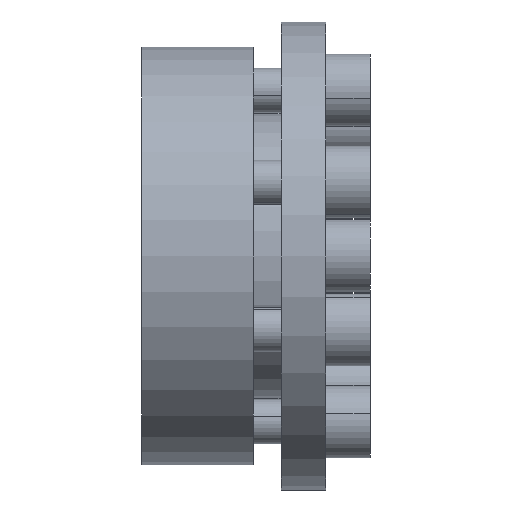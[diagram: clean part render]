
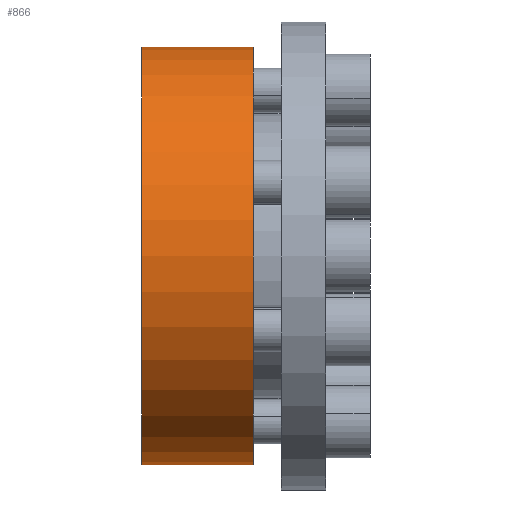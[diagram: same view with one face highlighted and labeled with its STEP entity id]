
A CAD part, front view. The second image highlights one B-rep face of the part: STEP entity #866.
In plain terms, the highlighted cylindrical face has radius 37.5 mm (diameter 75 mm), a partial arc.
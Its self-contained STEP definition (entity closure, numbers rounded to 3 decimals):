
#614 = VERTEX_POINT ( 'NONE', #2576 ) ;
#615 = VERTEX_POINT ( 'NONE', #2575 ) ;
#617 = EDGE_CURVE ( 'NONE', #615, #618, #2574, .T. ) ;
#618 = VERTEX_POINT ( 'NONE', #2570 ) ;
#621 = VERTEX_POINT ( 'NONE', #2564 ) ;
#675 = EDGE_CURVE ( 'NONE', #614, #621, #2707, .T. ) ;
#701 = EDGE_CURVE ( 'NONE', #615, #614, #2725, .T. ) ;
#862 = EDGE_CURVE ( 'NONE', #618, #621, #3015, .T. ) ;
#866 = ADVANCED_FACE ( 'NONE', ( #3011 ), #3010, .T. ) ;
#867 = EDGE_LOOP ( 'NONE', ( #868, #869, #870, #871 ) ) ;
#868 = ORIENTED_EDGE ( 'NONE', *, *, #617, .F. ) ;
#869 = ORIENTED_EDGE ( 'NONE', *, *, #701, .T. ) ;
#870 = ORIENTED_EDGE ( 'NONE', *, *, #675, .T. ) ;
#871 = ORIENTED_EDGE ( 'NONE', *, *, #862, .F. ) ;
#2564 = CARTESIAN_POINT ( 'NONE',  ( -13., 0., -37.5 ) ) ;
#2570 = CARTESIAN_POINT ( 'NONE',  ( -13., 0., 37.5 ) ) ;
#2571 = DIRECTION ( 'NONE',  ( 1., 0., 0. ) ) ;
#2572 = VECTOR ( 'NONE', #2571, 1000. ) ;
#2573 = CARTESIAN_POINT ( 'NONE',  ( 0., 0., 37.5 ) ) ;
#2574 = LINE ( 'NONE', #2573, #2572 ) ;
#2575 = CARTESIAN_POINT ( 'NONE',  ( -33., 0., 37.5 ) ) ;
#2576 = CARTESIAN_POINT ( 'NONE',  ( -33., 0., -37.5 ) ) ;
#2699 = DIRECTION ( 'NONE',  ( 1., 0., 0. ) ) ;
#2700 = VECTOR ( 'NONE', #2699, 1000. ) ;
#2701 = CARTESIAN_POINT ( 'NONE',  ( 0., 0., -37.5 ) ) ;
#2707 = LINE ( 'NONE', #2701, #2700 ) ;
#2721 = DIRECTION ( 'NONE',  ( 0., 0., -1. ) ) ;
#2722 = DIRECTION ( 'NONE',  ( 1., 0., 0. ) ) ;
#2723 = CARTESIAN_POINT ( 'NONE',  ( -33., 0., 0. ) ) ;
#2724 = AXIS2_PLACEMENT_3D ( 'NONE', #2723, #2722, #2721 ) ;
#2725 = CIRCLE ( 'NONE', #2724, 37.5 ) ;
#2954 = CARTESIAN_POINT ( 'NONE',  ( -13., 0., 0. ) ) ;
#3005 = DIRECTION ( 'NONE',  ( 0., 0., -1. ) ) ;
#3006 = DIRECTION ( 'NONE',  ( 1., 0., 0. ) ) ;
#3007 = CARTESIAN_POINT ( 'NONE',  ( 0., 0., 0. ) ) ;
#3008 = AXIS2_PLACEMENT_3D ( 'NONE', #3007, #3006, #3005 ) ;
#3010 = CYLINDRICAL_SURFACE ( 'NONE', #3008, 37.5 ) ;
#3011 = FACE_OUTER_BOUND ( 'NONE', #867, .T. ) ;
#3012 = DIRECTION ( 'NONE',  ( 0., 0., -1. ) ) ;
#3013 = DIRECTION ( 'NONE',  ( 1., 0., 0. ) ) ;
#3014 = AXIS2_PLACEMENT_3D ( 'NONE', #2954, #3013, #3012 ) ;
#3015 = CIRCLE ( 'NONE', #3014, 37.5 ) ;
